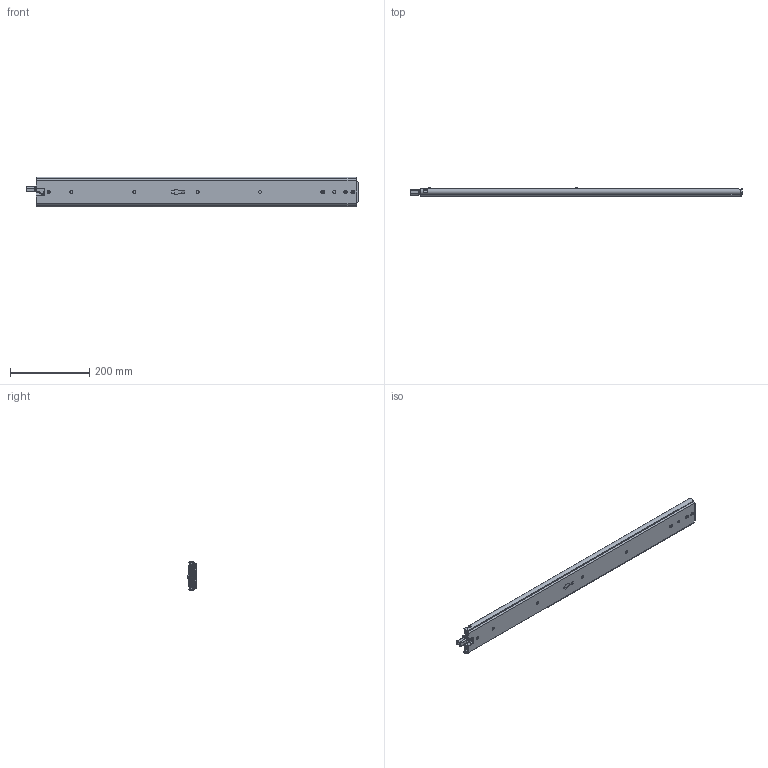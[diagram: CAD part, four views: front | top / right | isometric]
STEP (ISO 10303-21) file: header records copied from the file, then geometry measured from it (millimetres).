
FILE_DESCRIPTION((''),'2;1');
FILE_NAME('DG-76-3S-32YOU_ASM','2023-05-10T',('jishu015'),(''),'PRO/ENGINEER BY PARAMETRIC TECHNOLOGY CORPORATION, 2010280','PRO/ENGINEER BY PARAMETRIC TECHNOLOGY CORPORATION, 2010280','');
FILE_SCHEMA(('CONFIG_CONTROL_DESIGN'));
Products named in the file (29): KP-76-04WAIKE-1816_______; 1076-WAIKEZIDANJIAO16_______; WAIK16________ASM; 1076XIAOZHUTIAO-22516_______; 16_______; 1076XIAOZHUTIAO-17516________ASM; KP-76-04ZHONGGUI1816_______; 76CHANGGUIZHONGGUIJIAO16_______; 3X6WODIN16_______; ZHONGGUIBAIKOU16_______; PJ-76-30______; PJ-76-03______; 76-XIAOZHUJIA-11______; GANGZHU-XIAO______; ZHUJIA-XIAO_______ASM; ZHONGGUI6________ASM; KP-76-04NEIGUI1816_______; PJ-76-31______; DAOGPIAN16_______; 1053-3SBANJ01______; JIAO-11______; 76XINSUOKOU______; PJ-338______; PJ-356______; PJ-357______; PJ-336______; M4X4______; NEIGUI16________ASM; DG-76-3S-32YOU_ASM
Assembly tree (70 placements, depth 4):
  DG-76-3S-32YOU_ASM
    WAIK16________ASM
      KP-76-04WAIKE-1816_______
      1076-WAIKEZIDANJIAO16_______  x2
    1076XIAOZHUTIAO-17516________ASM  x2
      1076XIAOZHUTIAO-22516_______
      16_______
    ZHONGGUI6________ASM
      KP-76-04ZHONGGUI1816_______
      76CHANGGUIZHONGGUIJIAO16_______
      3X6WODIN16_______
      ZHONGGUIBAIKOU16_______
      PJ-76-30______
      PJ-76-03______
      ZHUJIA-XIAO_______ASM
        76-XIAOZHUJIA-11______
        GANGZHU-XIAO______  x28
    NEIGUI16________ASM
      KP-76-04NEIGUI1816_______
      PJ-76-31______
      DAOGPIAN16_______
      1053-3SBANJ01______
      JIAO-11______
      76XINSUOKOU______
      PJ-338______
      PJ-356______
      PJ-357______
      PJ-336______
      M4X4______
Bounding box: 838.72 x 20.7 x 75.3 mm (x, y, z)
Volume: 534504.8 mm3; surface area: 514847.5 mm2
Topology: 80 solids, 80 shells, 2079 faces, 6246 edges, 3962 vertices
Faces by surface type: plane 1069, cylinder 764, sphere 119, bspline 60, cone 28, extrusion 23, torus 16
Entity records: 68190 total; most frequent: CARTESIAN_POINT 18427, ORIENTED_EDGE 10824, DIRECTION 9899, EDGE_CURVE 5412, VERTEX_POINT 3526, AXIS2_PLACEMENT_3D 3405, VECTOR 3089, LINE 3066
